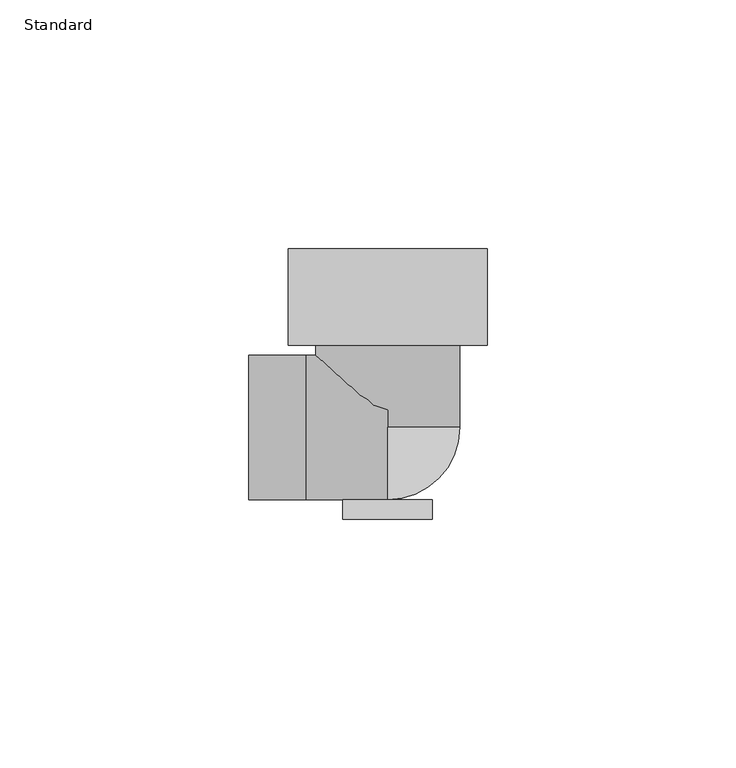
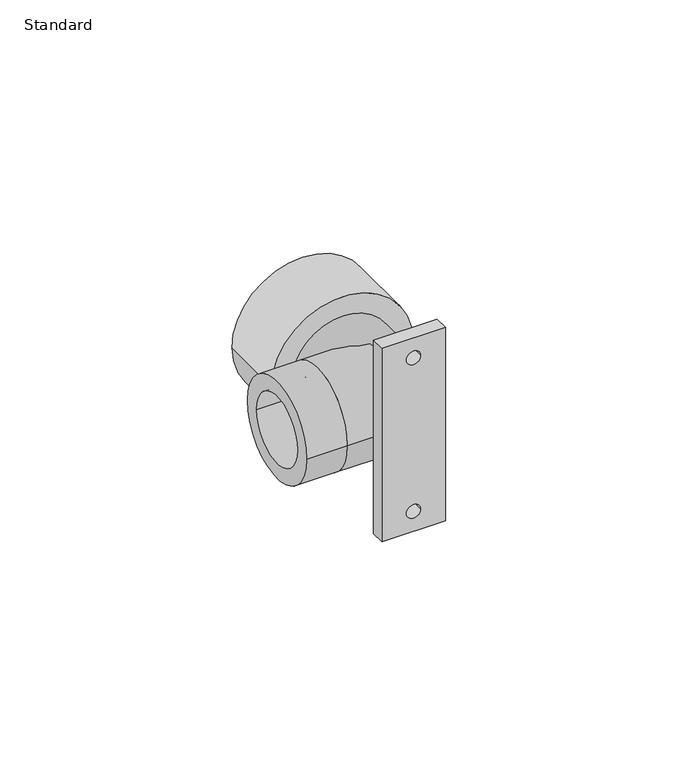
"""IFC4 building model written with IfcOpenShell, lengths in millimetres: pipe fitting geometry, EGB_VASEN_ PPR_Codo placa rosca hembra WXR204 : Standard."""

from ifc_helpers import new_model, si_unit, point, frame, frame_2d, origin, origin_2d, place, context, project, spatial, polyline, circle_curve, ellipse_curve, trimmed, segment, composite_curve, outline, extrude, source, transform, mapped, element, save
from ifc_brep_helpers import plane_surface, revolved_surface, advanced_brep


def standard_ee7c44fd(model_context):
    return source(origin(), model_context, "Body", "SolidModel", [
        extrude(outline(polyline([(29.0, 9.0), (29.0, -9.0), (-29.0, -9.0), (-29.0, 9.0), (29.0, 9.0)]), holes=[composite_curve([segment(trimmed(circle_curve(frame_2d((-23.0, 0.0)), 2.0), [point((-23.0, 2.0))], [point((-23.0, -2.0))], True, "CARTESIAN"), True, "CONTINUOUS"), segment(trimmed(circle_curve(frame_2d((-23.0, 0.0)), 2.0), [point((-23.0, -2.0))], [point((-23.0, 2.0))], True, "CARTESIAN"), True, "CONTINUOUS")], self_intersect=False), composite_curve([segment(trimmed(circle_curve(frame_2d((23.0, 0.0)), 2.0), [point((23.0, 2.0))], [point((23.0, -2.0))], True, "CARTESIAN"), True, "CONTINUOUS"), segment(trimmed(circle_curve(frame_2d((23.0, 0.0)), 2.0), [point((23.0, -2.0))], [point((23.0, 2.0))], True, "CARTESIAN"), True, "CONTINUOUS")], self_intersect=False)]), frame((0.0, -18.5, 0.0), z_axis=(0.0, 1.0, 0.0), x_axis=(0.0, 0.0, 1.0)), (0.0, 0.0, 1.0), 4.0),
        extrude(outline(composite_curve([segment(trimmed(circle_curve(origin_2d(), 6.35), [point((0.0, 6.35))], [point((0.0, -6.35))], False, "CARTESIAN"), True, "CONTINUOUS"), segment(trimmed(circle_curve(origin_2d(), 6.35), [point((0.0, -6.35))], [point((0.0, 6.35))], False, "CARTESIAN"), True, "CONTINUOUS")], self_intersect=False)), frame((0.0, 16.5, 0.0), z_axis=(0.0, 1.0, 0.0), x_axis=(0.0, 0.0, 1.0)), (0.0, 0.0, 1.0), 19.5),
        advanced_brep(
        [(0.0, 0.0, -14.5), (0.0, 0.0, 14.5)],
        [
            (0, 1, circle_curve(frame((0.0, 0.0, 0.0), z_axis=(-1.0, 0.0, 0.0), x_axis=(0.0, 1.0, 0.0)), 14.5)),
            (1, 0),
            (1, 0, circle_curve(frame((0.0, 0.0, 0.0), z_axis=(0.0, 1.0, 0.0), x_axis=(-1.0, 0.0, 0.0)), 14.5)),
        ],
        [
            plane_surface(frame((0.0, 0.0, 25.0264129), z_axis=(-1.0, 0.0, 0.0), x_axis=(0.0, -1.0, 0.0))),
            plane_surface(frame((0.0, 0.0, 25.0264129), z_axis=(0.0, 1.0, 0.0), x_axis=(1.0, 0.0, 0.0))),
            revolved_surface(trimmed(ellipse_curve(frame((0.0, 0.0, 0.0), z_axis=(1.0, 0.0, 0.0), x_axis=(0.0, 1.0, 0.0)), 14.5, 14.5), [point((0.0, 0.0, 14.5))], [point((0.0, 0.0, -14.5))], True, "CARTESIAN"), (0.0, 0.0, 25.0264129), (0.0, 0.0, -1.0)),
        ],
        [
            (0, [[1, 2]]),
            (1, [[3, -2]]),
            (2, [[-1, -3]]),
        ],
    ),
        extrude(outline(composite_curve([segment(trimmed(circle_curve(origin_2d(), 14.5), [point((-14.5, 0.0))], [point((14.5, 0.0))], False, "CARTESIAN"), True, "CONTINUOUS"), segment(trimmed(circle_curve(origin_2d(), 14.5), [point((14.5, 0.0))], [point((-14.5, 0.0))], False, "CARTESIAN"), True, "CONTINUOUS")], self_intersect=False), holes=[composite_curve([segment(trimmed(circle_curve(origin_2d(), 10.0), [point((-10.0, 0.0))], [point((10.0, 0.0))], True, "CARTESIAN"), True, "CONTINUOUS"), segment(trimmed(circle_curve(origin_2d(), 10.0), [point((10.0, 0.0))], [point((-10.0, 0.0))], True, "CARTESIAN"), True, "CONTINUOUS")], self_intersect=False)]), frame((-28.0, 0.0, 0.0), z_axis=(1.0, 0.0, 0.0), x_axis=(0.0, 1.0, 0.0)), (0.0, 0.0, 1.0), 11.5),
        extrude(outline(composite_curve([segment(trimmed(circle_curve(origin_2d(), 20.0), [point((0.0, 20.0))], [point((0.0, -20.0))], False, "CARTESIAN"), True, "CONTINUOUS"), segment(trimmed(circle_curve(origin_2d(), 20.0), [point((0.0, -20.0))], [point((0.0, 20.0))], False, "CARTESIAN"), True, "CONTINUOUS")], self_intersect=False), holes=[composite_curve([segment(trimmed(circle_curve(origin_2d(), 6.35), [point((0.0, 6.35))], [point((0.0, -6.35))], True, "CARTESIAN"), True, "CONTINUOUS"), segment(trimmed(circle_curve(origin_2d(), 6.35), [point((0.0, -6.35))], [point((0.0, 6.35))], True, "CARTESIAN"), True, "CONTINUOUS")], self_intersect=False)]), frame((0.0, 16.5, 0.0), z_axis=(0.0, 1.0, 0.0), x_axis=(0.0, 0.0, 1.0)), (0.0, 0.0, 1.0), 19.5),
        extrude(outline(composite_curve([segment(trimmed(circle_curve(origin_2d(), 14.5), [point((-14.5, 0.0))], [point((14.5, 0.0))], False, "CARTESIAN"), True, "CONTINUOUS"), segment(trimmed(circle_curve(origin_2d(), 14.5), [point((14.5, 0.0))], [point((-14.5, 0.0))], False, "CARTESIAN"), True, "CONTINUOUS")], self_intersect=False)), frame((-16.5, 0.0, 0.0), z_axis=(1.0, 0.0, 0.0), x_axis=(0.0, 1.0, 0.0)), (0.0, 0.0, 1.0), 16.5),
        extrude(outline(composite_curve([segment(trimmed(circle_curve(origin_2d(), 14.5), [point((0.0, -14.5))], [point((0.0, 14.5))], False, "CARTESIAN"), True, "CONTINUOUS"), segment(trimmed(circle_curve(origin_2d(), 14.5), [point((0.0, 14.5))], [point((0.0, -14.5))], False, "CARTESIAN"), True, "CONTINUOUS")], self_intersect=False)), frame((0.0, 0.0, 0.0), z_axis=(0.0, 1.0, 0.0), x_axis=(0.0, 0.0, 1.0)), (0.0, 0.0, 1.0), 16.5),
    ])


if __name__ == "__main__":
    model = new_model("IFC4")
    model_context = context("Model", 3, world=origin())
    ifc_project = project(units=[si_unit("LENGTHUNIT", "METRE", prefix="MILLI")], contexts=[model_context])
    site = spatial("IfcSite", under=ifc_project)
    building = spatial("IfcBuilding", under=site)
    placement = place(None, origin())
    standard_shape = standard_ee7c44fd(model_context)
    element("IfcPipeFitting", 1, ObjectType="EGB_VASEN_ PPR_Codo placa rosca hembra WXR204 : Standard", at=placement, inside=building, context=model_context, shape_type="MappedRepresentation", body=[
        mapped(standard_shape, transform((0.0, 0.0, 0.0), x_axis=(1.0, 0.0, 0.0), y_axis=(0.0, 1.0, 0.0), z_axis=(0.0, 0.0, 1.0))),
    ])
    save(model, "model.ifc")
